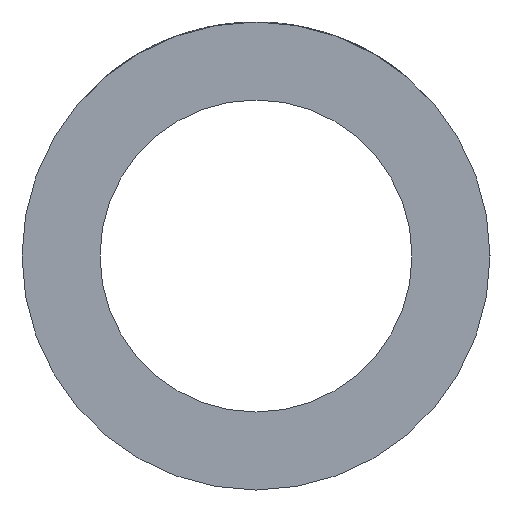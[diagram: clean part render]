
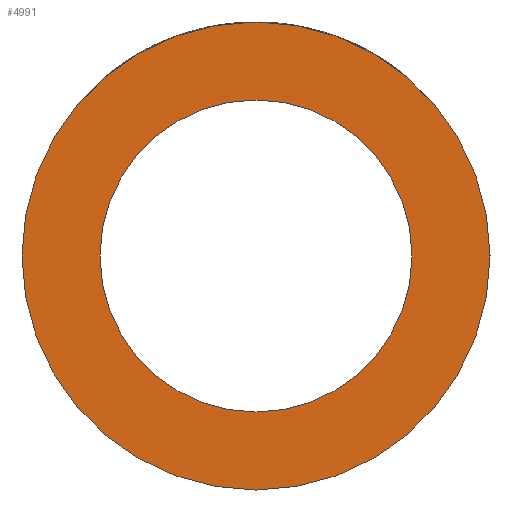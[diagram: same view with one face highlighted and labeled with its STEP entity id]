
A CAD part, left-side view. The second image highlights one B-rep face of the part: STEP entity #4991.
In plain terms, the highlighted planar face has unit normal (-1, 0, 0).
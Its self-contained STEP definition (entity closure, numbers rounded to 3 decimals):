
#118=PLANE('',#5378);
#1158=CIRCLE('',#5379,22.5);
#1159=CIRCLE('',#5380,15.);
#1470=ORIENTED_EDGE('',*,*,#2975,.F.);
#1471=ORIENTED_EDGE('',*,*,#2976,.T.);
#2975=EDGE_CURVE('',#3728,#3728,#1158,.T.);
#2976=EDGE_CURVE('',#3729,#3729,#1159,.T.);
#3728=VERTEX_POINT('',#8014);
#3729=VERTEX_POINT('',#8016);
#4245=EDGE_LOOP('',(#1470));
#4246=EDGE_LOOP('',(#1471));
#4612=FACE_BOUND('',#4245,.T.);
#4613=FACE_BOUND('',#4246,.T.);
#4991=ADVANCED_FACE('',(#4612,#4613),#118,.F.);
#5378=AXIS2_PLACEMENT_3D('',#8012,#5885,#5886);
#5379=AXIS2_PLACEMENT_3D('',#8013,#5887,#5888);
#5380=AXIS2_PLACEMENT_3D('',#8015,#5889,#5890);
#5885=DIRECTION('',(1.,0.,0.));
#5886=DIRECTION('',(0.,0.,-1.));
#5887=DIRECTION('',(1.,0.,0.));
#5888=DIRECTION('',(0.,0.,-1.));
#5889=DIRECTION('',(1.,0.,0.));
#5890=DIRECTION('',(0.,0.,-1.));
#8012=CARTESIAN_POINT('',(-61.5,0.,0.));
#8013=CARTESIAN_POINT('',(-61.5,0.,0.));
#8014=CARTESIAN_POINT('',(-61.5,0.,-22.5));
#8015=CARTESIAN_POINT('',(-61.5,0.,0.));
#8016=CARTESIAN_POINT('',(-61.5,0.,-15.));
